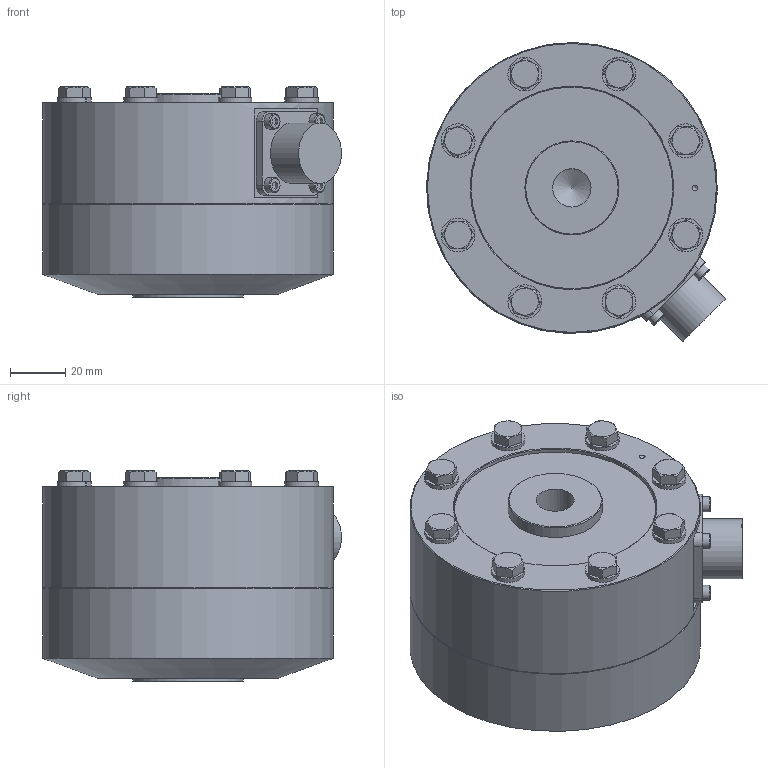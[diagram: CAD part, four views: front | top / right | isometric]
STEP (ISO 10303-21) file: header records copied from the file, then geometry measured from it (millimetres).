
FILE_DESCRIPTION(/* description */ ('Unknown'),/* implementation_level */ '2;1');
FILE_NAME(/* name */ 'C3XK-K200 to K300 SPEC',/* time_stamp */ '2021-05-11T15:13:46+09:00',/* author */ ('Unknown'),/* organization */ ('Unknown'),/* preprocessor_version */ 'ST-DEVELOPER v16.7',/* originating_system */ 'DEX',/* authorisation */ $);
FILE_SCHEMA (('AUTOMOTIVE_DESIGN {1 0 10303 214 3 1 1}'));
Length unit declared in the file: millimetre
Products named in the file (1): C3XK-K200 to K300 SPEC
Bounding box: 107.94 x 107.94 x 76 mm (x, y, z)
Volume: 582252.3 mm3; surface area: 56752.6 mm2
Topology: 1 solids, 1 shells, 232 faces, 595 edges, 381 vertices
Faces by surface type: plane 152, cylinder 52, cone 20, torus 8
Full cylindrical faces by diameter (mm): 2 x1, 5.5 x4, 6 x8, 6.6 x8, 13.835 x4, 21.8 x1, 34 x1, 40 x1, 72.9 x1, 73 x1, 105 x2
Entity records: 8162 total; most frequent: CARTESIAN_POINT 1324, DIRECTION 1040, ORIENTED_EDGE 1002, EDGE_CURVE 501, AXIS2_PLACEMENT_3D 370, VERTEX_POINT 350, FACE_BOUND 327, EDGE_LOOP 324
